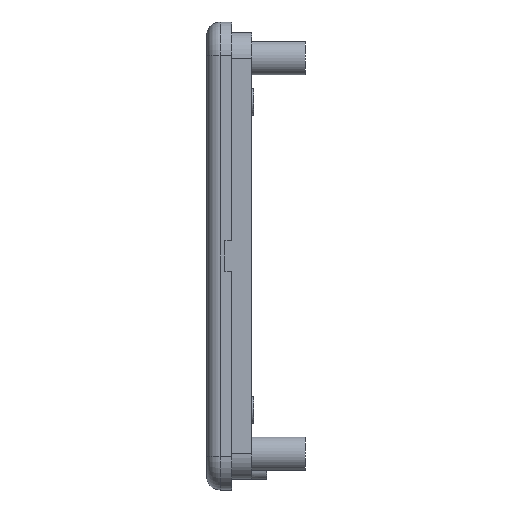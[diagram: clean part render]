
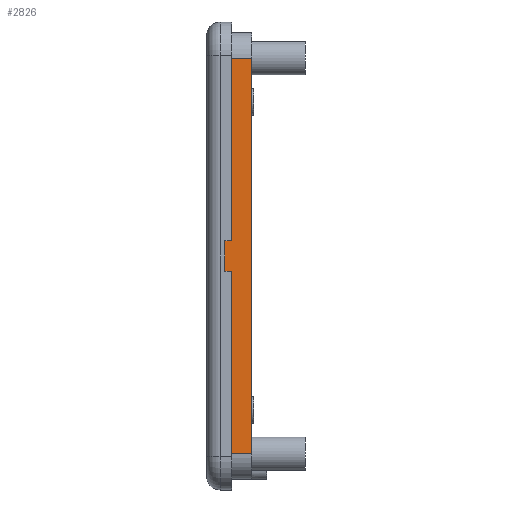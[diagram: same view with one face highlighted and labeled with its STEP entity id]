
A CAD part, left-side view. The second image highlights one B-rep face of the part: STEP entity #2826.
In plain terms, the highlighted planar face has unit normal (-1, 0, 0).
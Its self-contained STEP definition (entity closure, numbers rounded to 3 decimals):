
#56 = FACE_OUTER_BOUND ( 'NONE', #3453, .T. ) ;
#121 = CARTESIAN_POINT ( 'NONE',  ( -48.35, 3., 29.5 ) ) ;
#264 = CARTESIAN_POINT ( 'NONE',  ( -48.35, 3., 2.25 ) ) ;
#458 = DIRECTION ( 'NONE',  ( 0., 0., -1. ) ) ;
#485 = LINE ( 'NONE', #2498, #563 ) ;
#563 = VECTOR ( 'NONE', #2481, 1000. ) ;
#656 = ORIENTED_EDGE ( 'NONE', *, *, #3634, .T. ) ;
#679 = VECTOR ( 'NONE', #458, 1000. ) ;
#687 = LINE ( 'NONE', #763, #679 ) ;
#763 = CARTESIAN_POINT ( 'NONE',  ( -48.35, 0., 29.5 ) ) ;
#930 = ORIENTED_EDGE ( 'NONE', *, *, #3479, .T. ) ;
#936 = DIRECTION ( 'NONE',  ( 0., -1., 0. ) ) ;
#1092 = EDGE_CURVE ( 'NONE', #4080, #4138, #485, .T. ) ;
#1126 = CARTESIAN_POINT ( 'NONE',  ( -48.35, 3., -2.25 ) ) ;
#1165 = ORIENTED_EDGE ( 'NONE', *, *, #3657, .T. ) ;
#1174 = DIRECTION ( 'NONE',  ( 0., -1., 0. ) ) ;
#1552 = CARTESIAN_POINT ( 'NONE',  ( -48.35, 3., -29.5 ) ) ;
#1696 = EDGE_CURVE ( 'NONE', #3421, #4231, #3154, .T. ) ;
#1823 = DIRECTION ( 'NONE',  ( 0., -1., 0. ) ) ;
#1832 = AXIS2_PLACEMENT_3D ( 'NONE', #4183, #3944, #3961 ) ;
#1854 = ORIENTED_EDGE ( 'NONE', *, *, #1092, .T. ) ;
#1904 = CARTESIAN_POINT ( 'NONE',  ( -48.35, 0., -29.5 ) ) ;
#1951 = CARTESIAN_POINT ( 'NONE',  ( -48.35, 4., 2.25 ) ) ;
#2204 = CARTESIAN_POINT ( 'NONE',  ( -48.35, 3., 29.5 ) ) ;
#2285 = VECTOR ( 'NONE', #4163, 1000. ) ;
#2320 = VERTEX_POINT ( 'NONE', #2461 ) ;
#2346 = LINE ( 'NONE', #4211, #2392 ) ;
#2392 = VECTOR ( 'NONE', #4185, 1000. ) ;
#2426 = VERTEX_POINT ( 'NONE', #1904 ) ;
#2445 = VECTOR ( 'NONE', #936, 1000. ) ;
#2461 = CARTESIAN_POINT ( 'NONE',  ( -48.35, 4., -2.25 ) ) ;
#2465 = ORIENTED_EDGE ( 'NONE', *, *, #3572, .F. ) ;
#2481 = DIRECTION ( 'NONE',  ( 0., 0., -1. ) ) ;
#2484 = LINE ( 'NONE', #4051, #2285 ) ;
#2498 = CARTESIAN_POINT ( 'NONE',  ( -48.35, 3., 29.5 ) ) ;
#2499 = VECTOR ( 'NONE', #1823, 1000. ) ;
#2544 = LINE ( 'NONE', #2204, #2499 ) ;
#2615 = LINE ( 'NONE', #2682, #2445 ) ;
#2682 = CARTESIAN_POINT ( 'NONE',  ( -48.35, 4., 2.25 ) ) ;
#2722 = VECTOR ( 'NONE', #1174, 1000. ) ;
#2826 = ADVANCED_FACE ( 'NONE', ( #56 ), #4020, .T. ) ;
#2854 = ORIENTED_EDGE ( 'NONE', *, *, #3544, .F. ) ;
#2867 = LINE ( 'NONE', #1552, #2722 ) ;
#3114 = VERTEX_POINT ( 'NONE', #1951 ) ;
#3154 = LINE ( 'NONE', #3823, #3251 ) ;
#3251 = VECTOR ( 'NONE', #3919, 1000. ) ;
#3359 = CARTESIAN_POINT ( 'NONE',  ( -48.35, 0., 29.5 ) ) ;
#3421 = VERTEX_POINT ( 'NONE', #121 ) ;
#3453 = EDGE_LOOP ( 'NONE', ( #3932, #2854, #3642, #2465, #656, #1165, #1854, #930 ) ) ;
#3479 = EDGE_CURVE ( 'NONE', #4138, #2426, #2867, .T. ) ;
#3544 = EDGE_CURVE ( 'NONE', #3421, #3884, #2544, .T. ) ;
#3572 = EDGE_CURVE ( 'NONE', #3114, #4231, #2615, .T. ) ;
#3634 = EDGE_CURVE ( 'NONE', #3114, #2320, #2346, .T. ) ;
#3642 = ORIENTED_EDGE ( 'NONE', *, *, #1696, .T. ) ;
#3657 = EDGE_CURVE ( 'NONE', #2320, #4080, #2484, .T. ) ;
#3823 = CARTESIAN_POINT ( 'NONE',  ( -48.35, 3., 29.5 ) ) ;
#3884 = VERTEX_POINT ( 'NONE', #3359 ) ;
#3919 = DIRECTION ( 'NONE',  ( 0., 0., -1. ) ) ;
#3932 = ORIENTED_EDGE ( 'NONE', *, *, #3943, .F. ) ;
#3943 = EDGE_CURVE ( 'NONE', #3884, #2426, #687, .T. ) ;
#3944 = DIRECTION ( 'NONE',  ( -1., 0., 0. ) ) ;
#3961 = DIRECTION ( 'NONE',  ( 0., 0., 1. ) ) ;
#4020 = PLANE ( 'NONE',  #1832 ) ;
#4051 = CARTESIAN_POINT ( 'NONE',  ( -48.35, 4., -2.25 ) ) ;
#4080 = VERTEX_POINT ( 'NONE', #1126 ) ;
#4138 = VERTEX_POINT ( 'NONE', #4234 ) ;
#4163 = DIRECTION ( 'NONE',  ( 0., -1., 0. ) ) ;
#4183 = CARTESIAN_POINT ( 'NONE',  ( -48.35, 3., 29.5 ) ) ;
#4185 = DIRECTION ( 'NONE',  ( 0., 0., -1. ) ) ;
#4211 = CARTESIAN_POINT ( 'NONE',  ( -48.35, 4., 2.25 ) ) ;
#4231 = VERTEX_POINT ( 'NONE', #264 ) ;
#4234 = CARTESIAN_POINT ( 'NONE',  ( -48.35, 3., -29.5 ) ) ;
